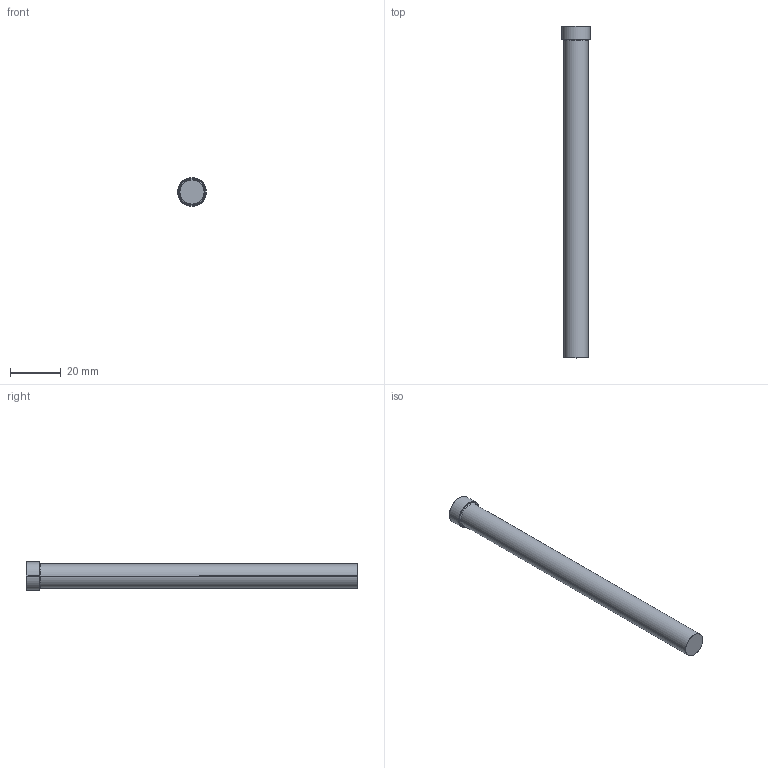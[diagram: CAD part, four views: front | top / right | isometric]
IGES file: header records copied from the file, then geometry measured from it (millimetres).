
Start section: SolidWorks IGES file using analytic representation for surfaces
Global section: file name: D:\Cleonir_arquivos\MT_15_07\Punções de Corte tipo E DIN 9861\PNE09,5130.igs; native system: SolidWorks 2013; preprocessor: SolidWorks 2013; author: Cleonir; date: 130731.214817; units: millimetre
Bounding box: 11.2 x 130.5 x 11.2 mm (x, y, z)
Surface area: 4114.8 mm2 (no closed solid volume)
Topology: 0 solids, 0 shells, 295 faces, 2229 edges, 2229 vertices
Faces by surface type: bspline 283, revolution 12
